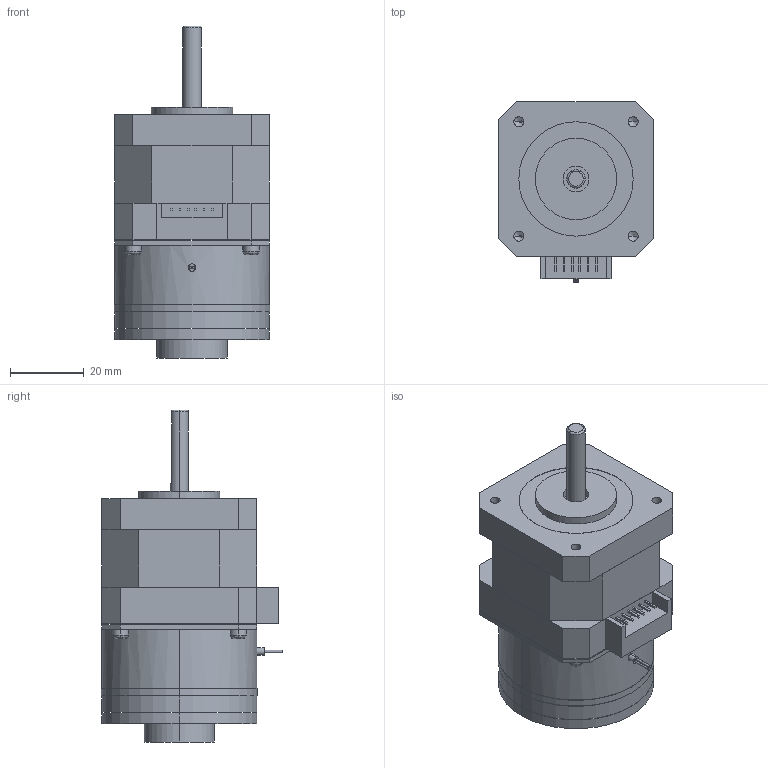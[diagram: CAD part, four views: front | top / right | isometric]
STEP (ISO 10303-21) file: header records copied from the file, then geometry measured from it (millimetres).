
FILE_DESCRIPTION (( 'STEP AP203' ), '1' );
FILE_NAME ('UB42D24-C08-434.STEP', '2019-11-16T02:00:41', ( 'China' ), ( 'Home' ), 'SwSTEP 2.0', 'SolidWorks 2016', '' );
FILE_SCHEMA (( 'CONFIG_CONTROL_DESIGN' ));
Length unit declared in the file: millimetre
Products named in the file (1): UB42D24-C08-434
Bounding box: 42.2 x 49.1 x 90 mm (x, y, z)
Volume: 96331.6 mm3; surface area: 20520 mm2
Topology: 2 solids, 7 shells, 302 faces, 770 edges, 501 vertices
Faces by surface type: plane 223, cylinder 60, bspline 11, cone 8
Entity records: 9350 total; most frequent: CARTESIAN_POINT 2094, ORIENTED_EDGE 1524, DIRECTION 1399, EDGE_CURVE 762, LINE 543, VECTOR 543, VERTEX_POINT 501, AXIS2_PLACEMENT_3D 428
